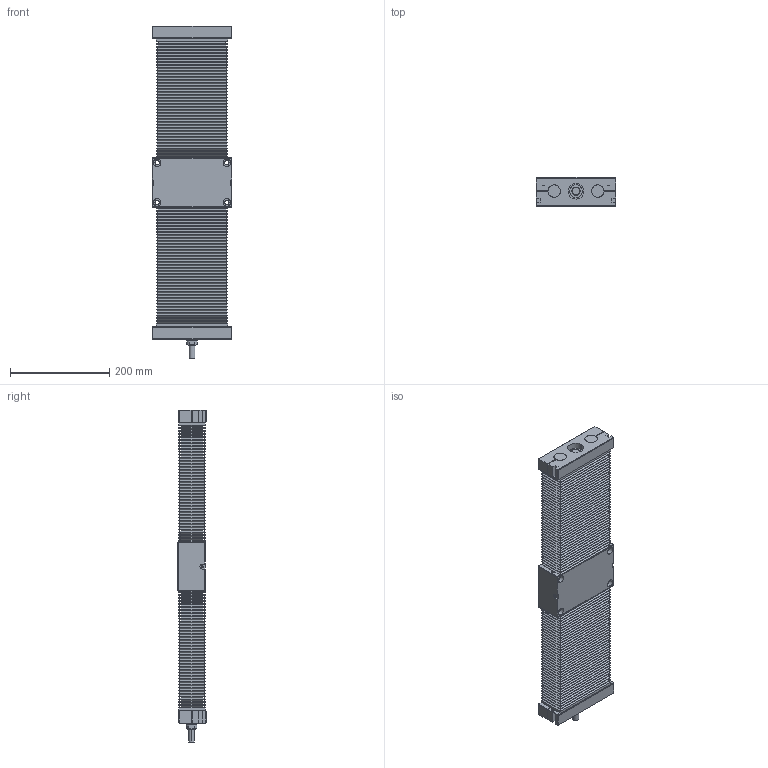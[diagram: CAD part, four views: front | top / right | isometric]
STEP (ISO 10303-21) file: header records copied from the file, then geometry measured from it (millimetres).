
FILE_DESCRIPTION (( 'STEP AP214' ), '1' );
FILE_NAME ('TKC2510B-300H0C-Ä£×é.step', '2025-10-11T05:41:04', ( '' ), ( '' ), 'SwSTEP 2.0', 'SolidWorks 2024', '' );
FILE_SCHEMA (( 'AUTOMOTIVE_DESIGN' ));
Length unit declared in the file: millimetre
Products named in the file (4): TKC25-300-01; TKC25-300-03; TKC25-02; TKC2510B-300H0C-模组
Assembly tree (4 placements, depth 2):
  TKC2510B-300H0C-模组
    TKC25-02
    TKC25-300-01
    TKC25-300-03  x2
Bounding box: 160 x 58 x 668 mm (x, y, z)
Volume: 3632825.6 mm3; surface area: 883578.7 mm2
Topology: 14 solids, 14 shells, 1731 faces, 3851 edges, 2194 vertices
Faces by surface type: plane 1256, cylinder 392, cone 44, torus 28, bspline 11
Entity records: 62514 total; most frequent: CARTESIAN_POINT 34917, ORIENTED_EDGE 5614, DIRECTION 5433, EDGE_CURVE 2807, LINE 1937, VECTOR 1937, AXIS2_PLACEMENT_3D 1748, VERTEX_POINT 1678
